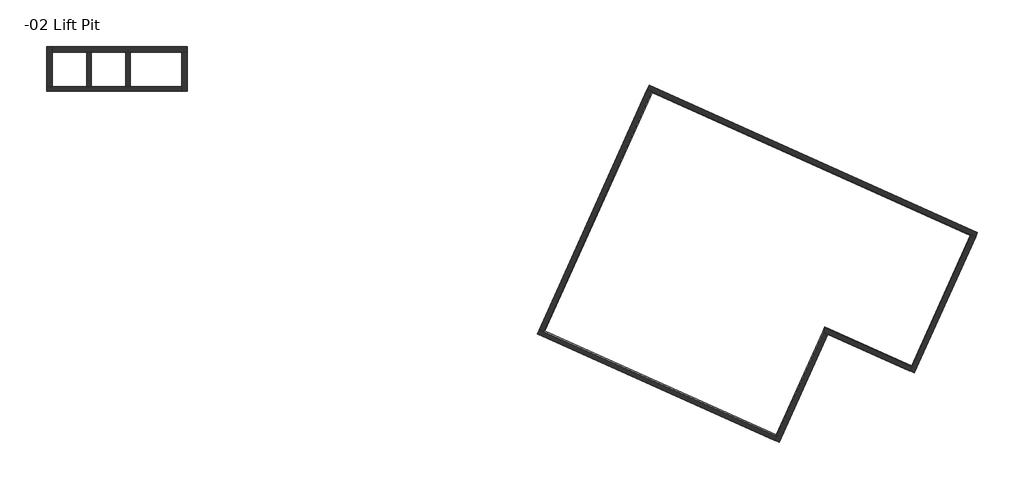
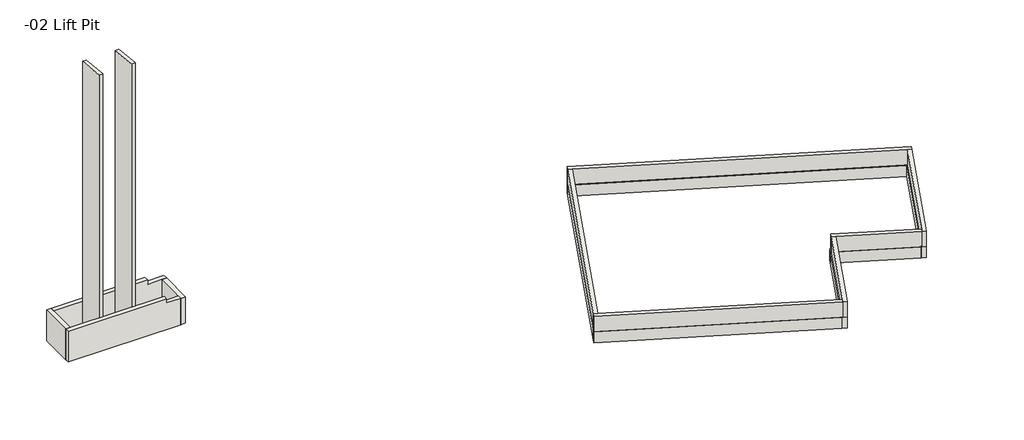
# One storey, incomplete: 18 walls.
"""IFC4 building model written with IfcOpenShell, lengths in millimetres."""

import ifcopenshell
import ifcopenshell.guid

model = None  # the IFC model being written
_history = None  # IfcOwnerHistory: only IFC2X3 demands one
_inside = {}  # id of a spatial element -> (the spatial element, [elements in it])
_under = {}  # id of a project, library or spatial element -> (it, [spatial elements below it])
_declared = {}  # id of a project -> (the project, [libraries it declares])
_typed = {}  # id of a type object -> (the type object, [elements of that type])
_made_of = {}  # id of a material, layer set ... -> (it, [elements and type objects made of it])


def new_model(schema):
    """Start an empty IFC model of exactly this schema.

    Asked for "IFC4X3", IfcOpenShell would pick the latest addendum, in which some entities
    have other attributes; the version numbers below select the first issue.
    IFC2X3 requires an IfcOwnerHistory on every rooted entity: one is made here for all.
    """
    global model, _history
    if schema == "IFC4X3":
        model = ifcopenshell.file(schema_version=(4, 3, 0, 0))
    else:
        model = ifcopenshell.file(schema=schema)
    _inside.clear()
    _under.clear()
    _declared.clear()
    _typed.clear()
    _made_of.clear()
    _history = None
    if model.schema == "IFC2X3":
        org = make("IfcOrganization", Name="unknown")
        user = make(
            "IfcPersonAndOrganization",
            ThePerson=make("IfcPerson", FamilyName="unknown"),
            TheOrganization=org,
        )
        app = make(
            "IfcApplication",
            ApplicationDeveloper=org,
            Version="unknown",
            ApplicationFullName="unknown",
            ApplicationIdentifier="unknown",
        )
        _history = make(
            "IfcOwnerHistory",
            OwningUser=user,
            OwningApplication=app,
            ChangeAction="ADDED",
            CreationDate=0,
        )
    return model


def make(cls, **values):
    """One entity of the class cls with the attributes given. An attribute that is None is left unset."""
    return model.create_entity(
        cls, **{name: value for name, value in values.items() if value is not None}
    )


def rooted(cls, **values):
    """An entity with a GlobalId (a new one), such as an element, a storey or a relation."""
    return make(cls, GlobalId=ifcopenshell.guid.new(), OwnerHistory=_history, **values)


def si_unit(unit_type, name, prefix=None):
    """IfcSIUnit, for example si_unit("LENGTHUNIT", "METRE", prefix="MILLI")."""
    return make("IfcSIUnit", UnitType=unit_type, Prefix=prefix, Name=name)


def assignment(units):
    """IfcUnitAssignment: the units of a project."""
    return None if units is None else make("IfcUnitAssignment", Units=units)


def point(xyz):
    """IfcCartesianPoint."""
    return None if xyz is None else make("IfcCartesianPoint", Coordinates=xyz)


def direction(xyz):
    """IfcDirection."""
    return None if xyz is None else make("IfcDirection", DirectionRatios=xyz)


def frame(location, z_axis=None, x_axis=None):
    """IfcAxis2Placement3D, a coordinate frame: its origin and axes. An axis left out is left unset."""
    return make(
        "IfcAxis2Placement3D",
        Location=point(location),
        Axis=direction(z_axis),
        RefDirection=direction(x_axis),
    )


def origin():
    """The frame at (0, 0, 0) with its axes left unset."""
    return frame((0.0, 0.0, 0.0))


def place(relative_to, where):
    """IfcLocalPlacement: puts the frame where relative to a parent placement (None: the world)."""
    return make(
        "IfcLocalPlacement", PlacementRelTo=relative_to, RelativePlacement=where
    )


def context(
    kind, dimensions, precision=None, world=None, true_north=None, identifier=None
):
    """IfcGeometricRepresentationContext, for example the 3D "Model" context."""
    return make(
        "IfcGeometricRepresentationContext",
        ContextIdentifier=identifier,
        ContextType=kind,
        CoordinateSpaceDimension=dimensions,
        Precision=precision,
        WorldCoordinateSystem=world,
        TrueNorth=true_north,
    )


def project(units=None, contexts=None):
    """IfcProject with its units and contexts."""
    return rooted(
        "IfcProject",
        Name="project",
        RepresentationContexts=contexts,
        UnitsInContext=assignment(units),
    )


def spatial(cls, under=None, at=None, **own):
    """A site, building, storey or space (cls), placed at a placement, below another one or the project."""
    s = rooted(cls, ObjectPlacement=at, **own)
    if under is not None:
        _under.setdefault(under.id(), (under, []))[1].append(s)
    return s


def polyline(points):
    """IfcPolyline through the points."""
    return make("IfcPolyline", Points=[point(p) for p in points])


def outline(outer, holes=None, kind="AREA"):
    """IfcArbitraryClosedProfileDef: a profile drawn as a closed curve; with holes, ...WithVoids."""
    if holes is None:
        return make("IfcArbitraryClosedProfileDef", ProfileType=kind, OuterCurve=outer)
    return make(
        "IfcArbitraryProfileDefWithVoids",
        ProfileType=kind,
        OuterCurve=outer,
        InnerCurves=holes,
    )


def extrude(swept, where, along, depth):
    """IfcExtrudedAreaSolid: the profile swept, set in the frame where, extruded along a direction by depth."""
    return make(
        "IfcExtrudedAreaSolid",
        SweptArea=swept,
        Position=where,
        ExtrudedDirection=direction(along),
        Depth=depth,
    )


def faces_of(points, faces, orient=None, outer=None):
    """IfcFace entities. A face is a list of loops; a loop is a list of indices into points, from 0.

    orient and outer hold one flag for each loop. By default every Orientation is true, the
    first loop of a face is its IfcFaceOuterBound and the others are IfcFaceBound.
    """
    made = []
    for i, loops in enumerate(faces):
        bounds = []
        for j, loop in enumerate(loops):
            is_outer = j == 0 if outer is None else outer[i][j]
            bounds.append(
                make(
                    "IfcFaceOuterBound" if is_outer else "IfcFaceBound",
                    Bound=make("IfcPolyLoop", Polygon=[points[k] for k in loop]),
                    Orientation=True if orient is None else orient[i][j],
                )
            )
        made.append(make("IfcFace", Bounds=bounds))
    return made


def faceted_brep(points, faces, orient=None, outer=None, voids=None):
    """IfcFacetedBrep: a solid bounded by flat faces; with voids (closed shells), ...WithVoids."""
    shared = [point(p) for p in points]
    hull = make("IfcClosedShell", CfsFaces=faces_of(shared, faces, orient, outer))
    if voids is None:
        return make("IfcFacetedBrep", Outer=hull)
    return make(
        "IfcFacetedBrepWithVoids",
        Outer=hull,
        Voids=[
            make(cls, CfsFaces=faces_of(shared, fs, o, b)) for cls, fs, o, b in voids
        ],
    )


def shape(context_of_items, identifier, shape_type, items):
    """IfcShapeRepresentation: the items that make up one representation, for example the "Body"."""
    return make(
        "IfcShapeRepresentation",
        ContextOfItems=context_of_items,
        RepresentationIdentifier=identifier,
        RepresentationType=shape_type,
        Items=items,
    )


def made_of(thing, what):
    """Note that an element or type object is made of a material, layer set ...; save() writes the relation."""
    if what is not None:
        _made_of.setdefault(what.id(), (what, []))[1].append(thing)
    return thing


def element(
    cls,
    number,
    at=None,
    inside=None,
    cuts=None,
    type_object=None,
    material=None,
    context=None,
    identifier="Body",
    shape_type=None,
    held_by="IfcProductDefinitionShape",
    body=None,
    shapes=None,
    **own,
):
    """One element of the class cls, such as IfcWall. Its Tag is "e" and its number.

    at: its placement. inside: the storey or other place that contains it. cuts: it is an
    opening in that element (IfcRelVoidsElement). A single representation is given by context,
    identifier, shape_type and body (its items); several are given by shapes. held_by: the class
    of the entity that holds the representations. save() writes the other relations.
    """
    e = rooted(cls, Tag="e%d" % number, ObjectPlacement=at, **own)
    if body is not None:
        shapes = [shape(context, identifier, shape_type, body)]
    if shapes is not None:
        e.Representation = make(held_by, Representations=shapes)
    if inside is not None:
        _inside.setdefault(inside.id(), (inside, []))[1].append(e)
    if cuts is not None:
        rooted(
            "IfcRelVoidsElement", RelatingBuildingElement=cuts, RelatedOpeningElement=e
        )
    if type_object is not None:
        _typed.setdefault(type_object.id(), (type_object, []))[1].append(e)
    return made_of(e, material)


def aggregate(whole, parts):
    """IfcRelAggregates: a whole, such as a stair, and the parts it consists of."""
    return rooted("IfcRelAggregates", RelatingObject=whole, RelatedObjects=parts)


def save(model, path):
    """Write the relations noted so far, then the file.

    IfcRelAggregates (storeys below a building ...), IfcRelContainedInSpatialStructure (elements
    in a storey), IfcRelDefinesByType, IfcRelAssociatesMaterial and IfcRelDeclares: one each for
    every whole, place, type object, material and project.
    """
    for whole, parts in _under.values():
        aggregate(whole, parts)
    for where, things in _inside.values():
        rooted(
            "IfcRelContainedInSpatialStructure",
            RelatedElements=things,
            RelatingStructure=where,
        )
    for kind, things in _typed.values():
        rooted("IfcRelDefinesByType", RelatedObjects=things, RelatingType=kind)
    for what, things in _made_of.values():
        rooted("IfcRelAssociatesMaterial", RelatedObjects=things, RelatingMaterial=what)
    for by, libraries in _declared.values():
        rooted("IfcRelDeclares", RelatingContext=by, RelatedDefinitions=libraries)
    model.write(path)


model = new_model("IFC4")

# Units and contexts
model_context = context("Model", 3, world=origin())
ifc_project = project(units=[si_unit("LENGTHUNIT", "METRE", prefix="MILLI")], contexts=[model_context])

# Site, building, storey
site = spatial("IfcSite", under=ifc_project)
building = spatial("IfcBuilding", under=site)
storey = spatial("IfcBuildingStorey", under=building, Name="-02 Lift Pit", Elevation=-2133.6)

# Walls
placement = place(None, origin())
element("IfcWall", 1, ObjectType="RC Wall 10\"", at=placement, inside=storey, context=model_context, shape_type="SweptSolid", body=[
    extrude(outline(polyline([(-3289.3, -2133.6), (-5168.9, -2133.6), (-5168.9, 16872.3860006), (-3289.3, 16674.83208), (-3289.3, -2133.6)])), frame((12738.1, 0.0, 0.0), z_axis=(1.0, 0.0, 0.0), x_axis=(0.0, 1.0, 0.0)), (0.0, 0.0, 1.0), 254.0),
])
element("IfcWall", 2, ObjectType="RC Wall 10\"", at=placement, inside=storey, context=model_context, shape_type="SweptSolid", body=[
    extrude(outline(polyline([(-3289.3, -2133.6), (-5168.9, -2133.6), (-5168.9, 16872.3860006), (-3289.3, 16674.83208), (-3289.3, -2133.6)])), frame((14871.7, 0.0, 0.0), z_axis=(1.0, 0.0, 0.0), x_axis=(0.0, 1.0, 0.0)), (0.0, 0.0, 1.0), 254.0),
])
element("IfcWall", 3, ObjectType="RC Wall 10\"", at=placement, inside=storey, context=model_context, shape_type="Brep", body=[
    faceted_brep([(10553.7, -5422.9, -2133.6), (17945.1, -5422.9, -2133.6), (17945.1, -5422.9, -304.8), (17005.3, -5422.9, -304.8), (17005.3, -5422.9, 0.0), (10553.7, -5422.9, 0.0), (10553.7, -5422.9, -304.8), (17945.1, -5168.9, -2133.6), (15125.7, -5168.9, -2133.6), (14871.7, -5168.9, -2133.6), (12992.1, -5168.9, -2133.6), (12738.1, -5168.9, -2133.6), (10858.5, -5168.9, -2133.6), (10553.7, -5168.9, -2133.6), (10553.7, -5168.9, -304.8), (10553.7, -5168.9, 0.0), (10858.5, -5168.9, 0.0), (17005.3, -5168.9, 0.0), (17005.3, -5168.9, -304.8), (17945.1, -5168.9, -304.8)], [[[0, 1, 2, 3, 4, 5, 6]], [[7, 8, 9, 10, 11, 12, 13, 14, 15, 16, 17, 18, 19]], [[1, 0, 13, 12, 11, 10, 9, 8, 7]], [[15, 5, 4, 17, 16]], [[5, 15, 14, 13, 0, 6]], [[1, 7, 19, 2]], [[18, 3, 2, 19]], [[3, 18, 17, 4]]]),
])
element("IfcWall", 4, ObjectType="RC Wall 10\"", at=placement, inside=storey, context=model_context, shape_type="Brep", body=[
    faceted_brep([(43375.5853595, -5335.982439, -1371.6), (43607.2829205, -5440.0604878, -1371.6), (61077.2790181, -13287.5453659, -1371.6), (61308.976579, -13391.6234146, -1371.6), (61308.976579, -13391.6234146, -304.8), (61077.2790181, -13287.5453659, -304.8), (43607.2829205, -5440.0604878, -304.8), (43375.5853595, -5335.982439, -304.8), (43479.6634083, -5104.284878, -1371.6), (43479.6634083, -5104.284878, -304.8), (61413.0546278, -13159.9258537, -304.8), (61413.0546278, -13159.9258537, -1371.6)], [[[0, 1, 2, 3, 4, 5, 6, 7]], [[8, 9, 10, 11]], [[3, 2, 1, 0, 8, 11]], [[7, 6, 5, 4, 10, 9]], [[4, 3, 11, 10]], [[0, 7, 9, 8]]]),
])
element("IfcWall", 5, ObjectType="RC Wall 10\"", at=placement, inside=storey, context=model_context, shape_type="Brep", body=[
    faceted_brep([(61077.2790181, -13287.5453659, -1371.6), (57835.2477985, -20504.9243902, -1371.6), (57731.1697498, -20736.6219512, -1371.6), (57731.1697498, -20736.6219512, -304.8), (57835.2477985, -20504.9243902, -304.8), (61077.2790181, -13287.5453659, -304.8), (61308.976579, -13391.6234146, -1371.6), (61308.976579, -13391.6234146, -304.8), (57962.8673107, -20840.7, -304.8), (57962.8673107, -20840.7, -1371.6), (61288.1609693, -13437.9629268, -1371.6)], [[[0, 1, 2, 3, 4, 5]], [[6, 7, 8, 9, 10]], [[2, 1, 0, 6, 10, 9]], [[5, 4, 3, 8, 7]], [[0, 5, 7, 6]], [[3, 2, 9, 8]]]),
])
element("IfcWall", 6, ObjectType="RC Wall 10\"", at=placement, inside=storey, context=model_context, shape_type="Brep", body=[
    faceted_brep([(57835.2477985, -20504.9243902, -1371.6), (53108.6175546, -18381.7321951, -1371.6), (53108.6175546, -18381.7321951, -304.8), (57835.2477985, -20504.9243902, -304.8), (57731.1697498, -20736.6219512, -1371.6), (57731.1697498, -20736.6219512, -304.8), (53236.2370668, -18717.5078049, -304.8), (53004.5395059, -18613.4297561, -304.8), (53004.5395059, -18613.4297561, -1371.6), (53236.2370668, -18717.5078049, -1371.6), (57684.8302376, -20715.8063415, -1371.6)], [[[0, 1, 2, 3]], [[4, 5, 6, 7, 8, 9, 10]], [[1, 0, 4, 10, 9, 8]], [[3, 2, 7, 6, 5]], [[0, 3, 5, 4]], [[2, 1, 8, 7]]]),
])
element("IfcWall", 7, ObjectType="RC Wall 10\"", at=placement, inside=storey, context=model_context, shape_type="Brep", body=[
    faceted_brep([(53004.5395059, -18613.4297561, -1371.6), (50449.4234083, -24301.604878, -1371.6), (50345.3453595, -24533.302439, -1371.6), (50345.3453595, -24533.302439, -304.8), (50449.4234083, -24301.604878, -304.8), (53004.5395059, -18613.4297561, -304.8), (53236.2370668, -18717.5078049, -1371.6), (53236.2370668, -18717.5078049, -304.8), (50577.0429205, -24637.3804878, -304.8), (50577.0429205, -24637.3804878, -1371.6)], [[[0, 1, 2, 3, 4, 5]], [[6, 7, 8, 9]], [[2, 1, 0, 6, 9]], [[5, 4, 3, 8, 7]], [[0, 5, 7, 6]], [[3, 2, 9, 8]]]),
])
element("IfcWall", 8, ObjectType="RC Wall 10\"", at=placement, inside=storey, context=model_context, shape_type="Brep", body=[
    faceted_brep([(50449.4234083, -24301.604878, -1371.6), (37706.0575546, -18577.3121951, -1371.6), (37474.3599937, -18473.2341463, -1371.6), (37474.3599937, -18473.2341463, -304.8), (37706.0575546, -18577.3121951, -304.8), (50449.4234083, -24301.604878, -304.8), (50345.3453595, -24533.302439, -1371.6), (50345.3453595, -24533.302439, -304.8), (37370.2819449, -18704.9317073, -304.8), (37370.2819449, -18704.9317073, -1371.6), (50299.0058473, -24512.4868293, -1371.6)], [[[0, 1, 2, 3, 4, 5]], [[6, 7, 8, 9, 10]], [[2, 1, 0, 6, 10, 9]], [[5, 4, 3, 8, 7]], [[0, 5, 7, 6]], [[3, 2, 9, 8]]]),
])
element("IfcWall", 9, ObjectType="RC Wall 10\"", at=placement, inside=storey, context=model_context, shape_type="Brep", body=[
    faceted_brep([(37706.0575546, -18577.3121951, -1371.6), (43607.2829205, -5440.0604878, -1371.6), (43607.2829205, -5440.0604878, -304.8), (37706.0575546, -18577.3121951, -304.8), (37474.3599937, -18473.2341463, -1371.6), (37474.3599937, -18473.2341463, -304.8), (43375.5853595, -5335.982439, -304.8), (43375.5853595, -5335.982439, -1371.6), (43354.7697498, -5382.3219512, -1371.6), (37495.1756034, -18426.8946341, -1371.6)], [[[0, 1, 2, 3]], [[4, 5, 6, 7, 8, 9]], [[1, 0, 4, 9, 8, 7]], [[3, 2, 6, 5]], [[2, 1, 7, 6]], [[0, 3, 5, 4]]]),
])
element("IfcWall", 10, ObjectType="RC Wall 12\"", at=placement, inside=storey, context=model_context, shape_type="Brep", body=[
    faceted_brep([(10553.7, -2984.5, -2133.6), (10553.7, -5168.9, -2133.6), (10553.7, -5168.9, -304.8), (10553.7, -5168.9, 0.0), (10553.7, -2984.5, 0.0), (10553.7, -2984.5, -304.8), (10858.5, -5168.9, -2133.6), (10858.5, -3289.3, -2133.6), (10858.5, -2984.5, -2133.6), (10858.5, -2984.5, -304.8), (10858.5, -2984.5, 0.0), (10858.5, -3289.3, 0.0), (10858.5, -5168.9, 0.0)], [[[0, 1, 2, 3, 4, 5]], [[6, 7, 8, 9, 10, 11, 12]], [[1, 0, 8, 7, 6]], [[4, 3, 12, 11, 10]], [[4, 10, 9, 8, 0, 5]], [[1, 6, 12, 3, 2]]]),
])
element("IfcWall", 11, ObjectType="RC Wall 12\"", at=placement, inside=storey, context=model_context, shape_type="Brep", body=[
    faceted_brep([(18249.9, -2984.5, -2133.6), (10858.5, -2984.5, -2133.6), (10858.5, -2984.5, -304.8), (10858.5, -2984.5, 0.0), (17005.3, -2984.5, 0.0), (17005.3, -2984.5, -304.8), (18249.9, -2984.5, -304.8), (10858.5, -3289.3, -2133.6), (12738.1, -3289.3, -2133.6), (12992.1, -3289.3, -2133.6), (14871.7, -3289.3, -2133.6), (15125.7, -3289.3, -2133.6), (17945.1, -3289.3, -2133.6), (18249.9, -3289.3, -2133.6), (18249.9, -3289.3, -304.8), (17945.1, -3289.3, -304.8), (17005.3, -3289.3, -304.8), (17005.3, -3289.3, 0.0), (10858.5, -3289.3, 0.0)], [[[0, 1, 2, 3, 4, 5, 6]], [[7, 8, 9, 10, 11, 12, 13, 14, 15, 16, 17, 18]], [[1, 0, 13, 12, 11, 10, 9, 8, 7]], [[3, 18, 17, 4]], [[13, 0, 6, 14]], [[1, 7, 18, 3, 2]], [[5, 16, 15, 14, 6]], [[16, 5, 4, 17]]]),
])
element("IfcWall", 12, ObjectType="RC Wall 12\"", at=placement, inside=storey, context=model_context, shape_type="Brep", body=[
    faceted_brep([(18249.9, -5422.9, -2133.6), (18249.9, -3289.3, -2133.6), (18249.9, -3289.3, -304.8), (18249.9, -5422.9, -304.8), (17945.1, -3289.3, -2133.6), (17945.1, -5168.9, -2133.6), (17945.1, -5422.9, -2133.6), (17945.1, -5422.9, -304.8), (17945.1, -5168.9, -304.8), (17945.1, -3289.3, -304.8)], [[[0, 1, 2, 3]], [[4, 5, 6, 7, 8, 9]], [[1, 0, 6, 5, 4]], [[6, 0, 3, 7]], [[1, 4, 9, 2]], [[3, 2, 9, 8, 7]]]),
])
element("IfcWall", 13, ObjectType="RC Wall 12\"", at=placement, inside=storey, context=model_context, shape_type="Brep", body=[
    faceted_brep([(43354.7697498, -5382.3219512, -2133.6), (43632.8068229, -5507.2156098, -2133.6), (61010.1238961, -13313.0692683, -2133.6), (61288.1609693, -13437.9629268, -2133.6), (61288.1609693, -13437.9629268, -1371.6), (61010.1238961, -13313.0692683, -1371.6), (43632.8068229, -5507.2156098, -1371.6), (43354.7697498, -5382.3219512, -1371.6), (43479.6634083, -5104.284878, -2133.6), (43479.6634083, -5104.284878, -1371.6), (61413.0546278, -13159.9258537, -1371.6), (61413.0546278, -13159.9258537, -2133.6), (61308.976579, -13391.6234146, -1371.6), (43375.5853595, -5335.982439, -1371.6)], [[[0, 1, 2, 3, 4, 5, 6, 7]], [[8, 9, 10, 11]], [[3, 2, 1, 0, 8, 11]], [[7, 6, 5, 4, 12, 10, 9, 13]], [[4, 3, 11, 10, 12]], [[0, 7, 13, 9, 8]]]),
])
element("IfcWall", 14, ObjectType="RC Wall 12\"", at=placement, inside=storey, context=model_context, shape_type="Brep", body=[
    faceted_brep([(61010.1238961, -13313.0692683, -2133.6), (57809.7238961, -20437.7692683, -2133.6), (57684.8302376, -20715.8063415, -2133.6), (57684.8302376, -20715.8063415, -1371.6), (57809.7238961, -20437.7692683, -1371.6), (61010.1238961, -13313.0692683, -1371.6), (61288.1609693, -13437.9629268, -2133.6), (61288.1609693, -13437.9629268, -1371.6), (57962.8673107, -20840.7, -1371.6), (57962.8673107, -20840.7, -2133.6), (57731.1697498, -20736.6219512, -1371.6)], [[[0, 1, 2, 3, 4, 5]], [[6, 7, 8, 9]], [[2, 1, 0, 6, 9]], [[5, 4, 3, 10, 8, 7]], [[0, 5, 7, 6]], [[3, 2, 9, 8, 10]]]),
])
element("IfcWall", 15, ObjectType="RC Wall 12\"", at=placement, inside=storey, context=model_context, shape_type="Brep", body=[
    faceted_brep([(57809.7238961, -20437.7692683, -2133.6), (53083.0936522, -18314.5770732, -2133.6), (53083.0936522, -18314.5770732, -1371.6), (57809.7238961, -20437.7692683, -1371.6), (57684.8302376, -20715.8063415, -2133.6), (57684.8302376, -20715.8063415, -1371.6), (53236.2370668, -18717.5078049, -1371.6), (53004.5395059, -18613.4297561, -1371.6), (52958.1999937, -18592.6141463, -1371.6), (52958.1999937, -18592.6141463, -2133.6), (53236.2370668, -18717.5078049, -2133.6)], [[[0, 1, 2, 3]], [[4, 5, 6, 7, 8, 9, 10]], [[1, 0, 4, 10, 9]], [[3, 2, 8, 7, 6, 5]], [[0, 3, 5, 4]], [[2, 1, 9, 8]]]),
])
element("IfcWall", 16, ObjectType="RC Wall 12\"", at=placement, inside=storey, context=model_context, shape_type="Brep", body=[
    faceted_brep([(52958.1999937, -18592.6141463, -2133.6), (50423.8995059, -24234.4497561, -2133.6), (50299.0058473, -24512.4868293, -2133.6), (50299.0058473, -24512.4868293, -1371.6), (50423.8995059, -24234.4497561, -1371.6), (52958.1999937, -18592.6141463, -1371.6), (53236.2370668, -18717.5078049, -2133.6), (53236.2370668, -18717.5078049, -1371.6), (50577.0429205, -24637.3804878, -1371.6), (50577.0429205, -24637.3804878, -2133.6), (50345.3453595, -24533.302439, -1371.6), (53004.5395059, -18613.4297561, -1371.6)], [[[0, 1, 2, 3, 4, 5]], [[6, 7, 8, 9]], [[2, 1, 0, 6, 9]], [[5, 4, 3, 10, 8, 7, 11]], [[0, 5, 11, 7, 6]], [[3, 2, 9, 8, 10]]]),
])
element("IfcWall", 17, ObjectType="RC Wall 12\"", at=placement, inside=storey, context=model_context, shape_type="Brep", body=[
    faceted_brep([(50423.8995059, -24234.4497561, -2133.6), (37773.2126766, -18551.7882927, -2133.6), (37495.1756034, -18426.8946341, -2133.6), (37495.1756034, -18426.8946341, -1371.6), (37773.2126766, -18551.7882927, -1371.6), (50423.8995059, -24234.4497561, -1371.6), (50299.0058473, -24512.4868293, -2133.6), (50299.0058473, -24512.4868293, -1371.6), (37370.2819449, -18704.9317073, -1371.6), (37370.2819449, -18704.9317073, -2133.6), (37474.3599937, -18473.2341463, -1371.6)], [[[0, 1, 2, 3, 4, 5]], [[6, 7, 8, 9]], [[2, 1, 0, 6, 9]], [[5, 4, 3, 10, 8, 7]], [[0, 5, 7, 6]], [[3, 2, 9, 8, 10]]]),
])
element("IfcWall", 18, ObjectType="RC Wall 12\"", at=placement, inside=storey, context=model_context, shape_type="SweptSolid", body=[
    extrude(outline(polyline([(43632.8068229, -5507.2156098), (37773.2126766, -18551.7882927), (37495.1756034, -18426.8946341), (43354.7697498, -5382.3219512), (43632.8068229, -5507.2156098)])), frame((0.0, 0.0, -2133.6), z_axis=(0.0, 0.0, 1.0), x_axis=(1.0, 0.0, 0.0)), (0.0, 0.0, 1.0), 762.0),
])

save(model, "model.ifc")
